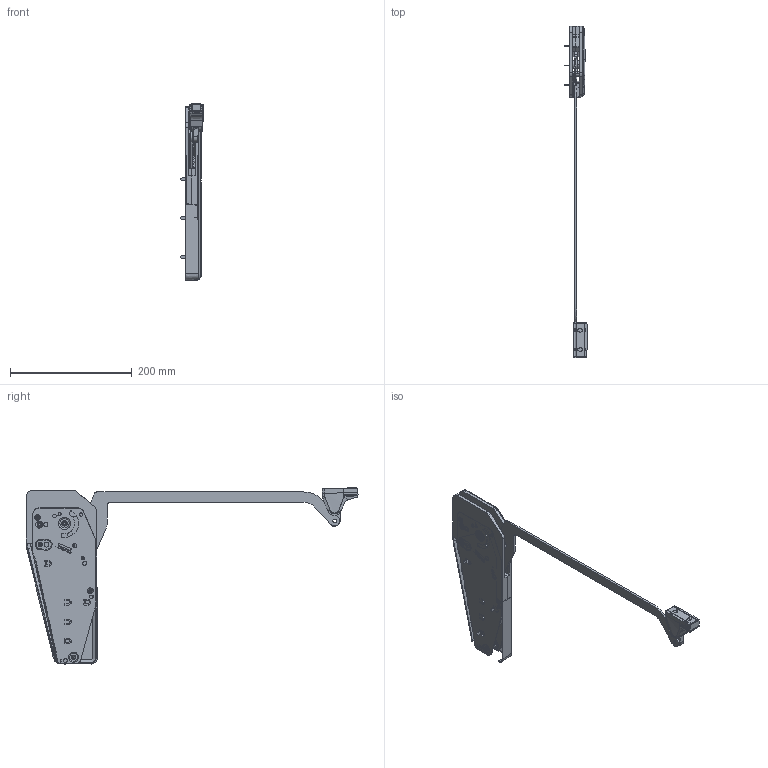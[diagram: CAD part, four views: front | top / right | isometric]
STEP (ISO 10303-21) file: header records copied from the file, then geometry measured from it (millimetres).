
FILE_DESCRIPTION((''),'2;1');
FILE_NAME('FLB_LINKS_480_530_GESCHLOSSEN_ASM','2014-02-06T',('7ke10'),('RAND'),'PRO/ENGINEER BY PARAMETRIC TECHNOLOGY CORPORATION, 2011490','PRO/ENGINEER BY PARAMETRIC TECHNOLOGY CORPORATION, 2011490','');
FILE_SCHEMA(('AUTOMOTIVE_DESIGN_CC2 { 1 2 10303 214 -1 1 5 2 }'));
Products named in the file (25): 582728; 582729; 150693; 150694; 150699; 150700; 582731_ASM; 582647; 233597; 150776; 582467_ASM; 150697; 150698; MZ-121042-00; 150783; 582667; 150777; 582687_ASM; 582668; 582669; 150779; 150780; 582683_ASM; 582685_ASM; FLB_LINKS_480_530_GESCHLOSSEN_ASM
Assembly tree (29 placements, depth 4):
  FLB_LINKS_480_530_GESCHLOSSEN_ASM
    582731_ASM
      582728
      582729
      150693
      150694
      150699
      150700  x2
    582467_ASM
      582647
      233597
      150776
    150697
    150699
    150698
    MZ-121042-00  x3
    150783
    582685_ASM
      582687_ASM
        582667
        150777  x2
      582683_ASM
        582668
        582669
        150779
        150780
Bounding box: 37.05 x 546.05 x 289.93 mm (x, y, z)
Volume: 302055.1 mm3; surface area: 266903.2 mm2
Topology: 24 solids, 28 shells, 2640 faces, 6870 edges, 4375 vertices
Faces by surface type: plane 1111, cylinder 858, bspline 378, cone 137, torus 124, extrusion 16, sphere 16
Entity records: 119738 total; most frequent: CARTESIAN_POINT 37683, ORIENTED_EDGE 13336, DIRECTION 12045, EDGE_CURVE 6668, PRESENTATION_STYLE_ASSIGNMENT 6599, STYLED_ITEM 6599, CURVE_STYLE 6582, VERTEX_POINT 4248
